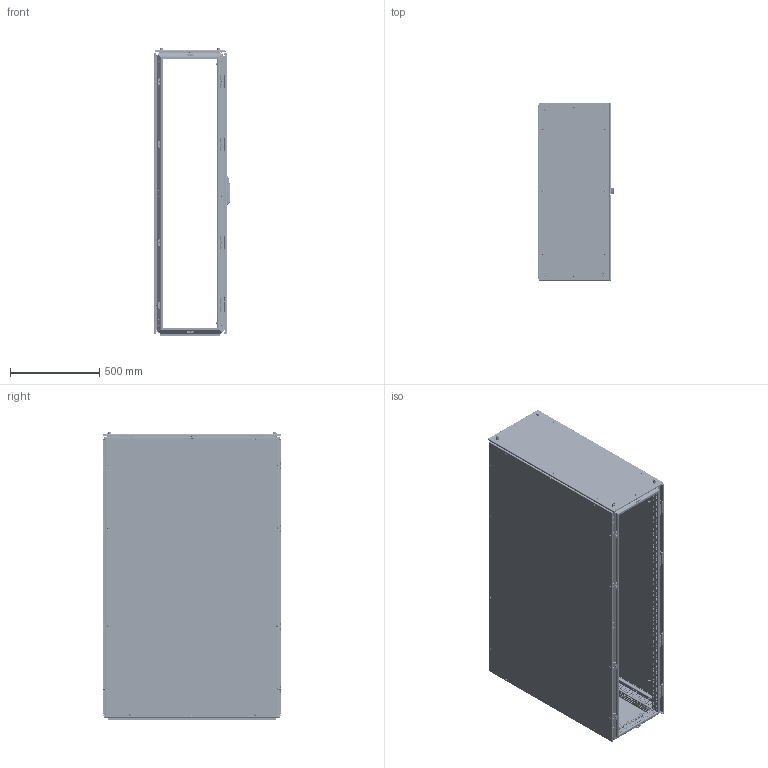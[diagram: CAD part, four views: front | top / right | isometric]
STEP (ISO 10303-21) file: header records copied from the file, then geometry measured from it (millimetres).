
FILE_DESCRIPTION(('STEP AP203'), '1');
FILE_NAME('ØÍÑ ÊÑ PRO II Êîðïóñ ÑÁ', '', ('UNSPECIFIED'), ('UNSPECIFIED'), 'C3D Converter', 'C3D Toolkit', '');
FILE_SCHEMA(('CONFIG_CONTROL_DESIGN'));
Length unit declared in the file: millimetre
Products named in the file (55): 3210.160.100.40; 3000; 3007.175; 3007.75; 3006; 3009.04; 3009.04.01; 3009.04.2; 3009.04.01.2; 3301; 3310; 3311; 3302; 3211; 3409; 3415; 3425; 3426; 3422.01; 3412; 3411; 2952; 3009.05; 3009.05.01; 3622.01; 3417; 3427; 3010
Assembly tree (367 placements, depth 6):
  3210.160.100.40
    3000
      3000
      (unnamed)  x88
      3007.175  x2
      (unnamed)  x14
      3007.75  x2
      3006
      3009.04  x8
        3009.04.01
        (unnamed)
        (unnamed)
      3009.04.2  x13
        3009.04.01.2
        (unnamed)
        (unnamed)
    3301
      3310
        3311
        (unnamed)
      (unnamed)  x8
      (unnamed)  x8
      (unnamed)  x4
      (unnamed)  x4
    3302
      3211
      (unnamed)  x2
      (unnamed)  x14
    3409
      3415
        3425
          3426
          3422.01  x4
          (unnamed)  x12
          (unnamed)  x8
          (unnamed)  x2
        3412  x2
        3411  x2
        (unnamed)  x4
        (unnamed)  x12
        (unnamed)  x20
        (unnamed)  x8
        2952
          (unnamed)
            (unnamed)
            (unnamed)
            (unnamed)
            (unnamed)
            (unnamed)
        (unnamed)  x2
        3009.05  x4
          3009.05.01
          (unnamed)
          (unnamed)
        3622.01  x4
        (unnamed)  x4
      3417
        3427
          3426
          3422.01  x4
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Bounding box: 423.93 x 997 x 1616 mm (x, y, z)
Volume: 11101336.9 mm3; surface area: 14048485 mm2
Topology: 466 solids, 466 shells, 24856 faces, 67624 edges, 44286 vertices
Faces by surface type: plane 16212, cylinder 6003, cone 1437, bspline 643, torus 434, extrusion 90, sphere 37
Full cylindrical faces by diameter (mm): 0.5 x32, 2.6 x8, 3.71 x8, 4.134 x130, 4.3 x2, 4.5 x1978, 4.8 x16, 4.917 x32, 5 x182, 5.2 x1, 5.5 x8, 5.8 x42, 6 x77, 6.1 x8, 6.4 x8, 6.6 x32, 6.75 x32, 6.8 x184, 7 x96, 7.3 x32, 7.5 x82, 8 x124, 8.3 x16, 8.5 x9, 9.2 x74, 10 x43, 10.106 x8, 10.5 x10, 11.5 x14, 12 x44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
Entity records: 626123 total; most frequent: CARTESIAN_POINT 255949, ORIENTED_EDGE 70226, DIRECTION 65413, EDGE_CURVE 35113, VECTOR 26645, LINE 26600, VERTEX_POINT 24457, EDGE_LOOP 22742
